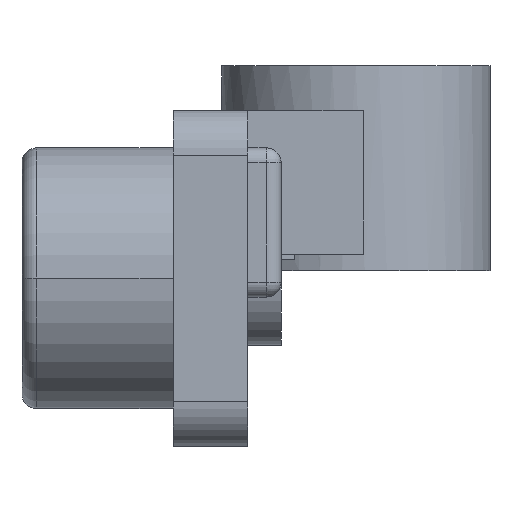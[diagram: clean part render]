
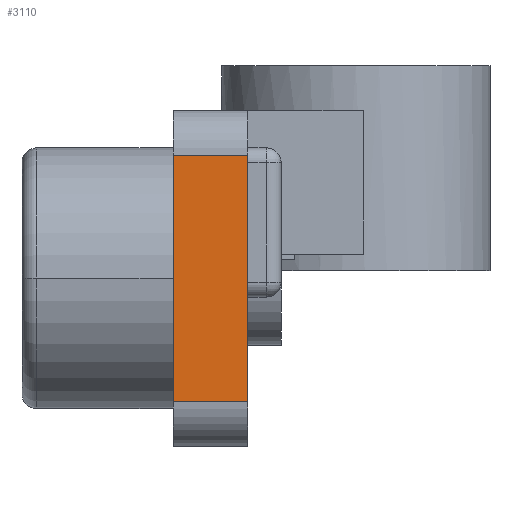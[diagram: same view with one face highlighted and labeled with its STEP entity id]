
A CAD part, front view. The second image highlights one B-rep face of the part: STEP entity #3110.
In plain terms, the highlighted planar face has unit normal (0, -1, 0).
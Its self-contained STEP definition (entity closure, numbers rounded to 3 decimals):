
#153 = PLANE('',#154);
#154 = AXIS2_PLACEMENT_3D('',#155,#156,#157);
#155 = CARTESIAN_POINT('',(5.3,77.127,11.544));
#156 = DIRECTION('',(1.,0.,0.));
#157 = DIRECTION('',(0.,0.,1.));
#1519 = VERTEX_POINT('',#1520);
#1520 = CARTESIAN_POINT('',(5.3,47.25,14.3));
#1535 = CYLINDRICAL_SURFACE('',#1536,1.2);
#1536 = AXIS2_PLACEMENT_3D('',#1537,#1538,#1539);
#1537 = CARTESIAN_POINT('',(3.3,48.45,14.3));
#1538 = DIRECTION('',(1.,0.,0.));
#1539 = DIRECTION('',(0.,0.,1.));
#1547 = EDGE_CURVE('',#1548,#1519,#1550,.T.);
#1548 = VERTEX_POINT('',#1549);
#1549 = CARTESIAN_POINT('',(5.3,47.25,7.7));
#1550 = SURFACE_CURVE('',#1551,(#1555,#1562),.PCURVE_S1.);
#1551 = LINE('',#1552,#1553);
#1552 = CARTESIAN_POINT('',(5.3,47.25,7.7));
#1553 = VECTOR('',#1554,1.);
#1554 = DIRECTION('',(0.,0.,1.));
#1555 = PCURVE('',#153,#1556);
#1556 = DEFINITIONAL_REPRESENTATION('',(#1557),#1561);
#1557 = LINE('',#1558,#1559);
#1558 = CARTESIAN_POINT('',(-3.844,29.877));
#1559 = VECTOR('',#1560,1.);
#1560 = DIRECTION('',(1.,0.));
#1561 = ( GEOMETRIC_REPRESENTATION_CONTEXT(2) 
PARAMETRIC_REPRESENTATION_CONTEXT() REPRESENTATION_CONTEXT('2D SPACE',''
  ) );
#1562 = PCURVE('',#1563,#1568);
#1563 = PLANE('',#1564);
#1564 = AXIS2_PLACEMENT_3D('',#1565,#1566,#1567);
#1565 = CARTESIAN_POINT('',(3.3,47.25,7.7));
#1566 = DIRECTION('',(0.,1.,0.));
#1567 = DIRECTION('',(0.,0.,1.));
#1568 = DEFINITIONAL_REPRESENTATION('',(#1569),#1573);
#1569 = LINE('',#1570,#1571);
#1570 = CARTESIAN_POINT('',(0.,2.));
#1571 = VECTOR('',#1572,1.);
#1572 = DIRECTION('',(1.,0.));
#1573 = ( GEOMETRIC_REPRESENTATION_CONTEXT(2) 
PARAMETRIC_REPRESENTATION_CONTEXT() REPRESENTATION_CONTEXT('2D SPACE',''
  ) );
#1592 = CYLINDRICAL_SURFACE('',#1593,1.2);
#1593 = AXIS2_PLACEMENT_3D('',#1594,#1595,#1596);
#1594 = CARTESIAN_POINT('',(3.3,48.45,7.7));
#1595 = DIRECTION('',(1.,0.,0.));
#1596 = DIRECTION('',(0.,0.,1.));
#3058 = VERTEX_POINT('',#3059);
#3059 = CARTESIAN_POINT('',(3.3,47.25,14.3));
#3074 = PLANE('',#3075);
#3075 = AXIS2_PLACEMENT_3D('',#3076,#3077,#3078);
#3076 = CARTESIAN_POINT('',(3.3,77.356,10.977));
#3077 = DIRECTION('',(-1.,-0.,-0.));
#3078 = DIRECTION('',(0.,0.,-1.));
#3090 = EDGE_CURVE('',#3058,#1519,#3091,.T.);
#3091 = SURFACE_CURVE('',#3092,(#3096,#3103),.PCURVE_S1.);
#3092 = LINE('',#3093,#3094);
#3093 = CARTESIAN_POINT('',(3.3,47.25,14.3));
#3094 = VECTOR('',#3095,1.);
#3095 = DIRECTION('',(1.,0.,0.));
#3096 = PCURVE('',#1535,#3097);
#3097 = DEFINITIONAL_REPRESENTATION('',(#3098),#3102);
#3098 = LINE('',#3099,#3100);
#3099 = CARTESIAN_POINT('',(1.571,0.));
#3100 = VECTOR('',#3101,1.);
#3101 = DIRECTION('',(0.,1.));
#3102 = ( GEOMETRIC_REPRESENTATION_CONTEXT(2) 
PARAMETRIC_REPRESENTATION_CONTEXT() REPRESENTATION_CONTEXT('2D SPACE',''
  ) );
#3103 = PCURVE('',#1563,#3104);
#3104 = DEFINITIONAL_REPRESENTATION('',(#3105),#3109);
#3105 = LINE('',#3106,#3107);
#3106 = CARTESIAN_POINT('',(6.6,0.));
#3107 = VECTOR('',#3108,1.);
#3108 = DIRECTION('',(0.,1.));
#3109 = ( GEOMETRIC_REPRESENTATION_CONTEXT(2) 
PARAMETRIC_REPRESENTATION_CONTEXT() REPRESENTATION_CONTEXT('2D SPACE',''
  ) );
#3110 = ADVANCED_FACE('',(#3111),#1563,.F.);
#3111 = FACE_BOUND('',#3112,.F.);
#3112 = EDGE_LOOP('',(#3113,#3136,#3157,#3158));
#3113 = ORIENTED_EDGE('',*,*,#3114,.F.);
#3114 = EDGE_CURVE('',#3115,#1548,#3117,.T.);
#3115 = VERTEX_POINT('',#3116);
#3116 = CARTESIAN_POINT('',(3.3,47.25,7.7));
#3117 = SURFACE_CURVE('',#3118,(#3122,#3129),.PCURVE_S1.);
#3118 = LINE('',#3119,#3120);
#3119 = CARTESIAN_POINT('',(3.3,47.25,7.7));
#3120 = VECTOR('',#3121,1.);
#3121 = DIRECTION('',(1.,0.,0.));
#3122 = PCURVE('',#1563,#3123);
#3123 = DEFINITIONAL_REPRESENTATION('',(#3124),#3128);
#3124 = LINE('',#3125,#3126);
#3125 = CARTESIAN_POINT('',(0.,0.));
#3126 = VECTOR('',#3127,1.);
#3127 = DIRECTION('',(0.,1.));
#3128 = ( GEOMETRIC_REPRESENTATION_CONTEXT(2) 
PARAMETRIC_REPRESENTATION_CONTEXT() REPRESENTATION_CONTEXT('2D SPACE',''
  ) );
#3129 = PCURVE('',#1592,#3130);
#3130 = DEFINITIONAL_REPRESENTATION('',(#3131),#3135);
#3131 = LINE('',#3132,#3133);
#3132 = CARTESIAN_POINT('',(1.571,0.));
#3133 = VECTOR('',#3134,1.);
#3134 = DIRECTION('',(0.,1.));
#3135 = ( GEOMETRIC_REPRESENTATION_CONTEXT(2) 
PARAMETRIC_REPRESENTATION_CONTEXT() REPRESENTATION_CONTEXT('2D SPACE',''
  ) );
#3136 = ORIENTED_EDGE('',*,*,#3137,.T.);
#3137 = EDGE_CURVE('',#3115,#3058,#3138,.T.);
#3138 = SURFACE_CURVE('',#3139,(#3143,#3150),.PCURVE_S1.);
#3139 = LINE('',#3140,#3141);
#3140 = CARTESIAN_POINT('',(3.3,47.25,7.7));
#3141 = VECTOR('',#3142,1.);
#3142 = DIRECTION('',(0.,0.,1.));
#3143 = PCURVE('',#1563,#3144);
#3144 = DEFINITIONAL_REPRESENTATION('',(#3145),#3149);
#3145 = LINE('',#3146,#3147);
#3146 = CARTESIAN_POINT('',(0.,0.));
#3147 = VECTOR('',#3148,1.);
#3148 = DIRECTION('',(1.,0.));
#3149 = ( GEOMETRIC_REPRESENTATION_CONTEXT(2) 
PARAMETRIC_REPRESENTATION_CONTEXT() REPRESENTATION_CONTEXT('2D SPACE',''
  ) );
#3150 = PCURVE('',#3074,#3151);
#3151 = DEFINITIONAL_REPRESENTATION('',(#3152),#3156);
#3152 = LINE('',#3153,#3154);
#3153 = CARTESIAN_POINT('',(3.277,30.106));
#3154 = VECTOR('',#3155,1.);
#3155 = DIRECTION('',(-1.,0.));
#3156 = ( GEOMETRIC_REPRESENTATION_CONTEXT(2) 
PARAMETRIC_REPRESENTATION_CONTEXT() REPRESENTATION_CONTEXT('2D SPACE',''
  ) );
#3157 = ORIENTED_EDGE('',*,*,#3090,.T.);
#3158 = ORIENTED_EDGE('',*,*,#1547,.F.);
